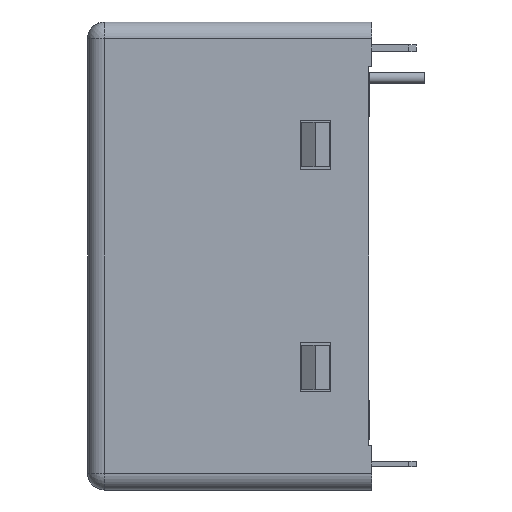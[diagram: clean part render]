
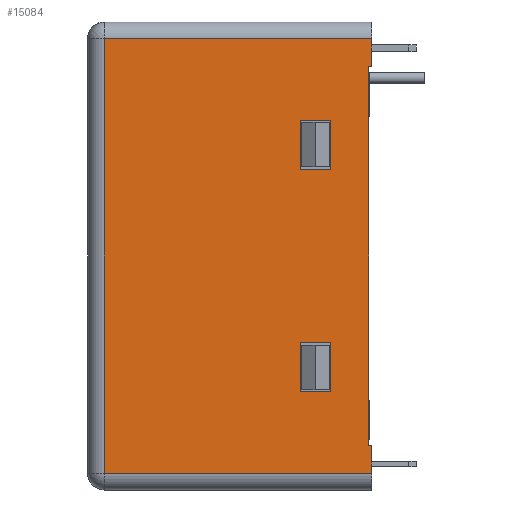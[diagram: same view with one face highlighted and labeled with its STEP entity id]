
A CAD part, left-side view. The second image highlights one B-rep face of the part: STEP entity #15084.
In plain terms, the highlighted planar face has unit normal (-1, 0, 0).
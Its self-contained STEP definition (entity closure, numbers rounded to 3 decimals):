
#661=ORIENTED_EDGE('',*,*,#4369,.F.);
#662=ORIENTED_EDGE('',*,*,#4580,.T.);
#663=ORIENTED_EDGE('',*,*,#4581,.T.);
#664=ORIENTED_EDGE('',*,*,#4582,.F.);
#665=ORIENTED_EDGE('',*,*,#4371,.F.);
#666=ORIENTED_EDGE('',*,*,#4579,.T.);
#667=ORIENTED_EDGE('',*,*,#4583,.F.);
#668=ORIENTED_EDGE('',*,*,#4402,.F.);
#669=ORIENTED_EDGE('',*,*,#4584,.F.);
#670=ORIENTED_EDGE('',*,*,#4585,.F.);
#671=ORIENTED_EDGE('',*,*,#4586,.F.);
#672=ORIENTED_EDGE('',*,*,#4587,.F.);
#673=ORIENTED_EDGE('',*,*,#4588,.F.);
#674=ORIENTED_EDGE('',*,*,#4589,.F.);
#675=ORIENTED_EDGE('',*,*,#4590,.F.);
#676=ORIENTED_EDGE('',*,*,#4591,.F.);
#4369=EDGE_CURVE('',#6389,#6390,#7728,.T.);
#4371=EDGE_CURVE('',#6391,#6392,#7729,.T.);
#4402=EDGE_CURVE('',#6390,#6421,#7751,.T.);
#4579=EDGE_CURVE('',#6391,#6539,#7912,.T.);
#4580=EDGE_CURVE('',#6389,#6540,#7913,.T.);
#4581=EDGE_CURVE('',#6540,#6541,#7914,.T.);
#4582=EDGE_CURVE('',#6392,#6541,#7915,.T.);
#4583=EDGE_CURVE('',#6421,#6539,#7916,.T.);
#4584=EDGE_CURVE('',#6542,#6543,#7917,.T.);
#4585=EDGE_CURVE('',#6544,#6542,#7918,.T.);
#4586=EDGE_CURVE('',#6545,#6544,#7919,.T.);
#4587=EDGE_CURVE('',#6543,#6545,#7920,.T.);
#4588=EDGE_CURVE('',#6546,#6547,#7921,.T.);
#4589=EDGE_CURVE('',#6548,#6546,#7922,.T.);
#4590=EDGE_CURVE('',#6549,#6548,#7923,.T.);
#4591=EDGE_CURVE('',#6547,#6549,#7924,.T.);
#6389=VERTEX_POINT('',#20421);
#6390=VERTEX_POINT('',#20423);
#6391=VERTEX_POINT('',#20427);
#6392=VERTEX_POINT('',#20428);
#6421=VERTEX_POINT('',#20491);
#6539=VERTEX_POINT('',#20881);
#6540=VERTEX_POINT('',#20887);
#6541=VERTEX_POINT('',#20889);
#6542=VERTEX_POINT('',#20893);
#6543=VERTEX_POINT('',#20894);
#6544=VERTEX_POINT('',#20896);
#6545=VERTEX_POINT('',#20898);
#6546=VERTEX_POINT('',#20901);
#6547=VERTEX_POINT('',#20902);
#6548=VERTEX_POINT('',#20904);
#6549=VERTEX_POINT('',#20906);
#7728=LINE('',#20422,#9606);
#7729=LINE('',#20426,#9607);
#7751=LINE('',#20490,#9629);
#7912=LINE('',#20884,#9790);
#7913=LINE('',#20886,#9791);
#7914=LINE('',#20888,#9792);
#7915=LINE('',#20890,#9793);
#7916=LINE('',#20891,#9794);
#7917=LINE('',#20892,#9795);
#7918=LINE('',#20895,#9796);
#7919=LINE('',#20897,#9797);
#7920=LINE('',#20899,#9798);
#7921=LINE('',#20900,#9799);
#7922=LINE('',#20903,#9800);
#7923=LINE('',#20905,#9801);
#7924=LINE('',#20907,#9802);
#9606=VECTOR('',#16707,1000.);
#9607=VECTOR('',#16712,1000.);
#9629=VECTOR('',#16758,1000.);
#9790=VECTOR('',#17047,1000.);
#9791=VECTOR('',#17050,1000.);
#9792=VECTOR('',#17051,1000.);
#9793=VECTOR('',#17052,1000.);
#9794=VECTOR('',#17053,1000.);
#9795=VECTOR('',#17054,1000.);
#9796=VECTOR('',#17055,1000.);
#9797=VECTOR('',#17056,1000.);
#9798=VECTOR('',#17057,1000.);
#9799=VECTOR('',#17058,1000.);
#9800=VECTOR('',#17059,1000.);
#9801=VECTOR('',#17060,1000.);
#9802=VECTOR('',#17061,1000.);
#11538=EDGE_LOOP('',(#661,#662,#663,#664,#665,#666,#667,#668));
#11539=EDGE_LOOP('',(#669,#670,#671,#672));
#11540=EDGE_LOOP('',(#673,#674,#675,#676));
#12395=FACE_BOUND('',#11538,.T.);
#12396=FACE_BOUND('',#11539,.T.);
#12397=FACE_BOUND('',#11540,.T.);
#13231=PLANE('',#15879);
#15084=ADVANCED_FACE('',(#12395,#12396,#12397),#13231,.T.);
#15879=AXIS2_PLACEMENT_3D('',#20885,#17048,#17049);
#16707=DIRECTION('',(0.,-1.,0.));
#16712=DIRECTION('',(0.,-1.,0.));
#16758=DIRECTION('',(0.,0.,-1.));
#17047=DIRECTION('',(0.,0.,-1.));
#17048=DIRECTION('',(-1.,0.,0.));
#17049=DIRECTION('',(0.,-1.,0.));
#17050=DIRECTION('',(0.,0.,-1.));
#17051=DIRECTION('',(0.,1.,0.));
#17052=DIRECTION('',(0.,0.,-1.));
#17053=DIRECTION('',(0.,1.,0.));
#17054=DIRECTION('',(0.,0.,-1.));
#17055=DIRECTION('',(0.,1.,0.));
#17056=DIRECTION('',(0.,0.,1.));
#17057=DIRECTION('',(0.,-1.,0.));
#17058=DIRECTION('',(0.,-1.,0.));
#17059=DIRECTION('',(0.,0.,-1.));
#17060=DIRECTION('',(0.,1.,0.));
#17061=DIRECTION('',(0.,0.,1.));
#20421=CARTESIAN_POINT('',(-41.,-17.,12.75));
#20422=CARTESIAN_POINT('',(-41.,-17.,12.75));
#20423=CARTESIAN_POINT('',(-41.,-19.5,12.75));
#20426=CARTESIAN_POINT('',(-41.,19.5,12.75));
#20427=CARTESIAN_POINT('',(-41.,19.5,12.75));
#20428=CARTESIAN_POINT('',(-41.,17.,12.75));
#20490=CARTESIAN_POINT('',(-41.,-19.5,12.75));
#20491=CARTESIAN_POINT('',(-41.,-19.5,-11.25));
#20881=CARTESIAN_POINT('',(-41.,19.5,-11.25));
#20884=CARTESIAN_POINT('',(-41.,19.5,12.75));
#20885=CARTESIAN_POINT('',(-41.,21.,-12.75));
#20886=CARTESIAN_POINT('',(-41.,-17.,12.75));
#20887=CARTESIAN_POINT('',(-41.,-17.,12.45));
#20888=CARTESIAN_POINT('',(-41.,-17.,12.45));
#20889=CARTESIAN_POINT('',(-41.,17.,12.45));
#20890=CARTESIAN_POINT('',(-41.,17.,12.75));
#20891=CARTESIAN_POINT('',(-41.,-19.5,-11.25));
#20892=CARTESIAN_POINT('',(-41.,12.2,9.));
#20893=CARTESIAN_POINT('',(-41.,12.2,9.));
#20894=CARTESIAN_POINT('',(-41.,12.2,6.3));
#20895=CARTESIAN_POINT('',(-41.,7.8,9.));
#20896=CARTESIAN_POINT('',(-41.,7.8,9.));
#20897=CARTESIAN_POINT('',(-41.,7.8,6.3));
#20898=CARTESIAN_POINT('',(-41.,7.8,6.3));
#20899=CARTESIAN_POINT('',(-41.,12.2,6.3));
#20900=CARTESIAN_POINT('',(-41.,-7.8,6.3));
#20901=CARTESIAN_POINT('',(-41.,-7.8,6.3));
#20902=CARTESIAN_POINT('',(-41.,-12.2,6.3));
#20903=CARTESIAN_POINT('',(-41.,-7.8,9.));
#20904=CARTESIAN_POINT('',(-41.,-7.8,9.));
#20905=CARTESIAN_POINT('',(-41.,-12.2,9.));
#20906=CARTESIAN_POINT('',(-41.,-12.2,9.));
#20907=CARTESIAN_POINT('',(-41.,-12.2,6.3));
